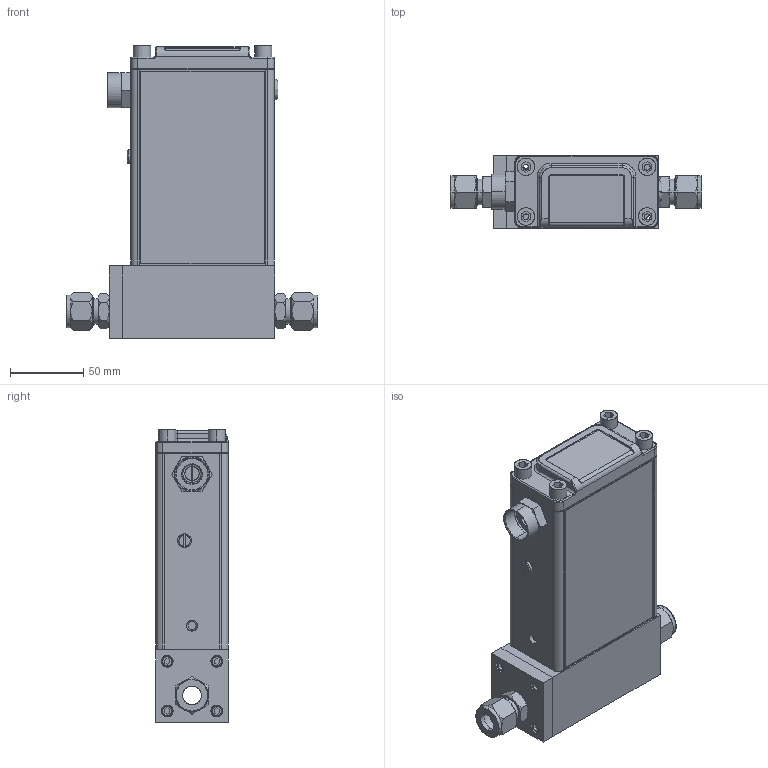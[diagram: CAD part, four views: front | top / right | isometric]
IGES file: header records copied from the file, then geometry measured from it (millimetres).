
Start section: SolidWorks IGES file using analytic representation for surfaces
Global section: file name: G:\Engineering\CAD MODELS FOR SALES\CAD MODEL STORAGE\SLA\SLAMF61\CUSTOMER FILES\IGES\SLAMF61-S-1P-0-K-REVB.IGS; native system: SolidWorks 2017; preprocessor: SolidWorks 2017; author: CFehr; date: 170801.103122; units: inch
Bounding box: 171.62 x 49.5 x 199.98 mm (x, y, z)
Surface area: 103671.7 mm2 (no closed solid volume)
Topology: 0 solids, 0 shells, 577 faces, 5960 edges, 5956 vertices
Faces by surface type: bspline 412, revolution 165
